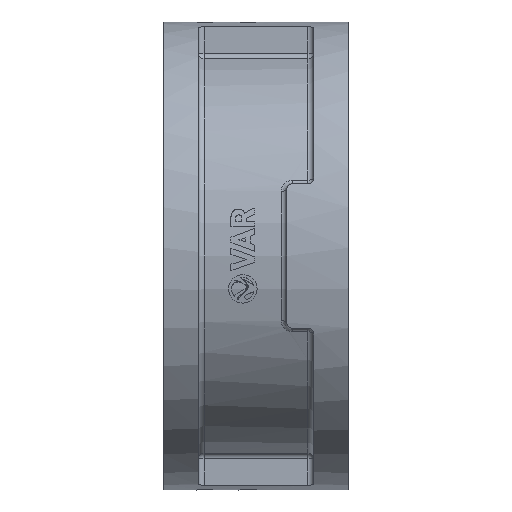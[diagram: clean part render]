
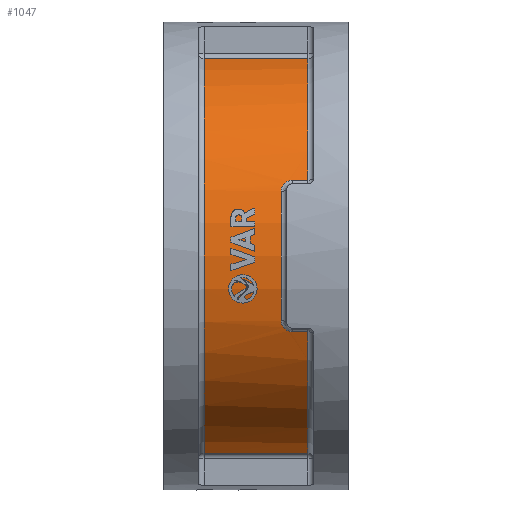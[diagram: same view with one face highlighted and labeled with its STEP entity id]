
A CAD part, left-side view. The second image highlights one B-rep face of the part: STEP entity #1047.
In plain terms, the highlighted cylindrical face has radius 70.5 mm (diameter 141 mm), a partial arc.
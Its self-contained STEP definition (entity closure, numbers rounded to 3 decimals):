
#1047=ADVANCED_FACE('',(#3741),#3743,.T.);
#3741=FACE_BOUND('',#3742,.T.);
#3742=EDGE_LOOP('',(#11544,#11545,#11546,#11547,#11548,#11549,#11550,#11551,#11552,
#11553));
#3743=CYLINDRICAL_SURFACE('',#3744,70.5);
#3744=AXIS2_PLACEMENT_3D('',#3745,#3746,#3747);
#3745=CARTESIAN_POINT('',(0.,12.,0.));
#3746=DIRECTION('',(0.,1.,0.));
#3747=DIRECTION('',(-1.,0.,0.));
#11544=ORIENTED_EDGE('',*,*,#14210,.T.);
#11545=ORIENTED_EDGE('',*,*,#14211,.F.);
#11546=ORIENTED_EDGE('',*,*,#14212,.F.);
#11547=ORIENTED_EDGE('',*,*,#14213,.F.);
#11548=ORIENTED_EDGE('',*,*,#14214,.T.);
#11549=ORIENTED_EDGE('',*,*,#14215,.F.);
#11550=ORIENTED_EDGE('',*,*,#14216,.F.);
#11551=ORIENTED_EDGE('',*,*,#14217,.F.);
#11552=ORIENTED_EDGE('',*,*,#14218,.F.);
#11553=ORIENTED_EDGE('',*,*,#14219,.F.);
#14210=EDGE_CURVE('',#15314,#15315,#15316,.T.);
#14211=EDGE_CURVE('',#15317,#15315,#15318,.F.);
#14212=EDGE_CURVE('',#15319,#15317,#15320,.T.);
#14213=EDGE_CURVE('',#15321,#15319,#15322,.T.);
#14214=EDGE_CURVE('',#15321,#15323,#15324,.T.);
#14215=EDGE_CURVE('',#15325,#15323,#15326,.F.);
#14216=EDGE_CURVE('',#15327,#15325,#15328,.T.);
#14217=EDGE_CURVE('',#15329,#15327,#15330,.F.);
#14218=EDGE_CURVE('',#15331,#15329,#15332,.F.);
#14219=EDGE_CURVE('',#15314,#15331,#15333,.T.);
#15314=VERTEX_POINT('',#18595);
#15315=VERTEX_POINT('',#18596);
#15316=CIRCLE('',#18597,70.5);
#15317=VERTEX_POINT('',#18601);
#15318=LINE('',#18602,#18603);
#15319=VERTEX_POINT('',#18605);
#15320=CIRCLE('',#18606,70.5);
#15321=VERTEX_POINT('',#18610);
#15322=LINE('',#18611,#18612);
#15323=VERTEX_POINT('',#18614);
#15324=CIRCLE('',#18615,70.5);
#15325=VERTEX_POINT('',#18619);
#15326=LINE('',#18620,#18621);
#15327=VERTEX_POINT('',#18623);
#15328=B_SPLINE_CURVE_WITH_KNOTS('',3,
(#18624,#18625,#18626,#18627,#18628,#18629,#18630,#18631,#18632,#18633,#18634,#18635,
#18636,#18637,#18638,#18639,#18640,#18641,#18642,#18643,#18644,#18645),
.UNSPECIFIED.,.F.,.F.,
(4,1,1,1,1,1,1,1,1,1,1,1,1,1,1,1,1,1,1,4),
(0.,0.037,0.073,0.117,0.164,0.212,
0.247,0.282,0.323,0.377,0.448,
0.524,0.598,0.665,0.728,0.789,
0.846,0.901,0.952,1.),
.UNSPECIFIED.);
#15329=VERTEX_POINT('',#18646);
#15330=CIRCLE('',#18647,70.5);
#15331=VERTEX_POINT('',#18651);
#15332=B_SPLINE_CURVE_WITH_KNOTS('',3,
(#18652,#18653,#18654,#18655,#18656,#18657,#18658,#18659,#18660,#18661,#18662,#18663,
#18664,#18665,#18666,#18667,#18668,#18669,#18670,#18671,#18672,#18673),
.UNSPECIFIED.,.F.,.F.,
(4,1,1,1,1,1,1,1,1,1,1,1,1,1,1,1,1,1,1,4),
(0.,0.037,0.073,0.117,0.164,0.212,
0.247,0.282,0.323,0.377,0.448,
0.524,0.598,0.665,0.728,0.789,
0.846,0.901,0.952,1.),
.UNSPECIFIED.);
#15333=LINE('',#18674,#18675);
#18595=CARTESIAN_POINT('',(-65.429,14.,26.255));
#18596=CARTESIAN_POINT('',(-17.698,14.,68.242));
#18597=AXIS2_PLACEMENT_3D('',#18598,#18599,#18600);
#18598=CARTESIAN_POINT('',(0.,14.,0.));
#18599=DIRECTION('',(0.,1.,0.));
#18600=DIRECTION('',(-0.928,0.,0.372));
#18601=CARTESIAN_POINT('',(-17.698,50.,68.242));
#18602=CARTESIAN_POINT('',(-17.698,14.,68.242));
#18603=VECTOR('',#18604,1.);
#18604=DIRECTION('',(0.,1.,0.));
#18605=CARTESIAN_POINT('',(-17.698,50.,-68.242));
#18606=AXIS2_PLACEMENT_3D('',#18607,#18608,#18609);
#18607=CARTESIAN_POINT('',(0.,50.,0.));
#18608=DIRECTION('',(0.,1.,0.));
#18609=DIRECTION('',(-0.251,0.,-0.968));
#18610=CARTESIAN_POINT('',(-17.698,14.,-68.242));
#18611=CARTESIAN_POINT('',(-17.698,14.,-68.242));
#18612=VECTOR('',#18613,1.);
#18613=DIRECTION('',(0.,1.,0.));
#18614=CARTESIAN_POINT('',(-65.429,14.,-26.255));
#18615=AXIS2_PLACEMENT_3D('',#18616,#18617,#18618);
#18616=CARTESIAN_POINT('',(0.,14.,0.));
#18617=DIRECTION('',(0.,1.,0.));
#18618=DIRECTION('',(-0.251,0.,-0.968));
#18619=CARTESIAN_POINT('',(-65.429,19.333,-26.255));
#18620=CARTESIAN_POINT('',(-65.429,14.,-26.255));
#18621=VECTOR('',#18622,1.);
#18622=DIRECTION('',(0.,1.,0.));
#18623=CARTESIAN_POINT('',(-66.858,23.333,-22.366));
#18624=CARTESIAN_POINT('',(-66.858,23.333,-22.366));
#18625=CARTESIAN_POINT('',(-66.834,23.335,-22.439));
#18626=CARTESIAN_POINT('',(-66.786,23.328,-22.581));
#18627=CARTESIAN_POINT('',(-66.709,23.31,-22.808));
#18628=CARTESIAN_POINT('',(-66.624,23.273,-23.053));
#18629=CARTESIAN_POINT('',(-66.532,23.215,-23.318));
#18630=CARTESIAN_POINT('',(-66.446,23.142,-23.562));
#18631=CARTESIAN_POINT('',(-66.369,23.062,-23.778));
#18632=CARTESIAN_POINT('',(-66.297,22.976,-23.979));
#18633=CARTESIAN_POINT('',(-66.214,22.86,-24.208));
#18634=CARTESIAN_POINT('',(-66.109,22.69,-24.491));
#18635=CARTESIAN_POINT('',(-65.988,22.45,-24.816));
#18636=CARTESIAN_POINT('',(-65.864,22.145,-25.145));
#18637=CARTESIAN_POINT('',(-65.752,21.803,-25.436));
#18638=CARTESIAN_POINT('',(-65.658,21.447,-25.676));
#18639=CARTESIAN_POINT('',(-65.582,21.087,-25.869));
#18640=CARTESIAN_POINT('',(-65.523,20.722,-26.02));
#18641=CARTESIAN_POINT('',(-65.478,20.357,-26.131));
#18642=CARTESIAN_POINT('',(-65.449,20.002,-26.206));
#18643=CARTESIAN_POINT('',(-65.432,19.662,-26.247));
#18644=CARTESIAN_POINT('',(-65.429,19.44,-26.255));
#18645=CARTESIAN_POINT('',(-65.429,19.333,-26.255));
#18646=CARTESIAN_POINT('',(-66.858,23.333,22.366));
#18647=AXIS2_PLACEMENT_3D('',#18648,#18649,#18650);
#18648=CARTESIAN_POINT('',(0.,23.333,0.));
#18649=DIRECTION('',(0.,1.,0.));
#18650=DIRECTION('',(-0.948,0.,-0.317));
#18651=CARTESIAN_POINT('',(-65.429,19.333,26.255));
#18652=CARTESIAN_POINT('',(-66.858,23.333,22.366));
#18653=CARTESIAN_POINT('',(-66.834,23.335,22.439));
#18654=CARTESIAN_POINT('',(-66.786,23.328,22.581));
#18655=CARTESIAN_POINT('',(-66.709,23.31,22.808));
#18656=CARTESIAN_POINT('',(-66.624,23.273,23.053));
#18657=CARTESIAN_POINT('',(-66.532,23.215,23.318));
#18658=CARTESIAN_POINT('',(-66.446,23.142,23.562));
#18659=CARTESIAN_POINT('',(-66.369,23.062,23.778));
#18660=CARTESIAN_POINT('',(-66.297,22.976,23.979));
#18661=CARTESIAN_POINT('',(-66.214,22.86,24.208));
#18662=CARTESIAN_POINT('',(-66.109,22.69,24.491));
#18663=CARTESIAN_POINT('',(-65.988,22.45,24.816));
#18664=CARTESIAN_POINT('',(-65.864,22.145,25.145));
#18665=CARTESIAN_POINT('',(-65.752,21.803,25.436));
#18666=CARTESIAN_POINT('',(-65.658,21.447,25.676));
#18667=CARTESIAN_POINT('',(-65.582,21.087,25.869));
#18668=CARTESIAN_POINT('',(-65.523,20.722,26.02));
#18669=CARTESIAN_POINT('',(-65.478,20.357,26.131));
#18670=CARTESIAN_POINT('',(-65.449,20.002,26.206));
#18671=CARTESIAN_POINT('',(-65.432,19.662,26.247));
#18672=CARTESIAN_POINT('',(-65.429,19.44,26.255));
#18673=CARTESIAN_POINT('',(-65.429,19.333,26.255));
#18674=CARTESIAN_POINT('',(-65.429,14.,26.255));
#18675=VECTOR('',#18676,1.);
#18676=DIRECTION('',(0.,1.,0.));
